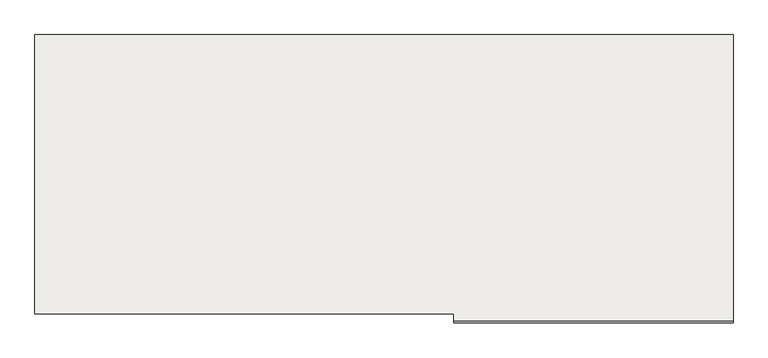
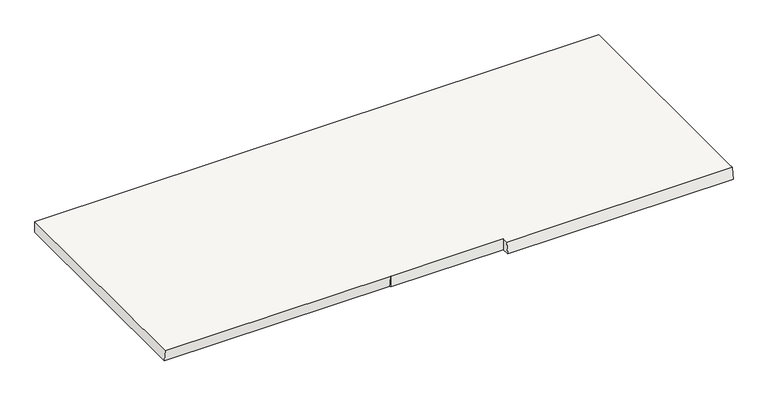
"""IFC4 building model written with IfcOpenShell, lengths in millimetres: slab geometry, Немонолитная площадка."""

from ifc_helpers import new_model, si_unit, origin, place, context, project, spatial, faceted_brep, source, transform, mapped, element, save


def slab_3419086f(model_context):
    return source(origin(), model_context, "Body", "Brep", [
        faceted_brep([(-6502.2328055, 8974.5507128, 1565.2173913), (-6502.2328055, 8967.3632128, 1515.2173913), (-5502.2328055, 8967.3632128, 1515.2173913), (-5502.2328055, 8974.5507128, 1565.2173913), (-7002.2328055, 8999.5507128, 1565.2173913), (-6502.2328055, 8999.5507128, 1565.2173913), (-5502.2328055, 8999.5507128, 1565.2173913), (-5502.2328055, 9999.5507128, 1565.2173913), (-8002.2328055, 9999.5507128, 1565.2173913), (-8002.2328055, 8999.5507128, 1565.2173913), (-6502.2328055, 8999.5507128, 1515.2173913), (-7002.2328055, 8999.5507128, 1515.2173913), (-7002.2328055, 9006.7382128, 1515.2173913), (-8002.2328055, 9006.7382128, 1515.2173913), (-8002.2328055, 9999.5507128, 1515.2173913), (-5502.2328055, 9999.5507128, 1515.2173913), (-5502.2328055, 8999.5507128, 1515.2173913)], [[[0, 1, 2, 3]], [[4, 5, 0, 3, 6, 7, 8, 9]], [[10, 11, 12, 13, 14, 15, 16, 2, 1]], [[5, 4, 11, 10]], [[0, 5, 10, 1]], [[6, 3, 2, 16]], [[7, 6, 16, 15]], [[8, 7, 15, 14]], [[9, 8, 14, 13]], [[4, 12, 11]], [[12, 4, 9, 13]]]),
    ])


if __name__ == "__main__":
    model = new_model("IFC4")
    model_context = context("Model", 3, world=origin())
    ifc_project = project(units=[si_unit("LENGTHUNIT", "METRE", prefix="MILLI")], contexts=[model_context])
    site = spatial("IfcSite", under=ifc_project)
    building = spatial("IfcBuilding", under=site)
    placement = place(None, origin())
    slab_shape = slab_3419086f(model_context)
    element("IfcSlab", 1, ObjectType="Немонолитная площадка", at=placement, inside=building, context=model_context, shape_type="MappedRepresentation", body=[
        mapped(slab_shape, transform((0.0, 0.0, 0.0), x_axis=(1.0, 0.0, 0.0), y_axis=(0.0, 1.0, 0.0), z_axis=(0.0, 0.0, 1.0))),
    ])
    save(model, "model.ifc")
